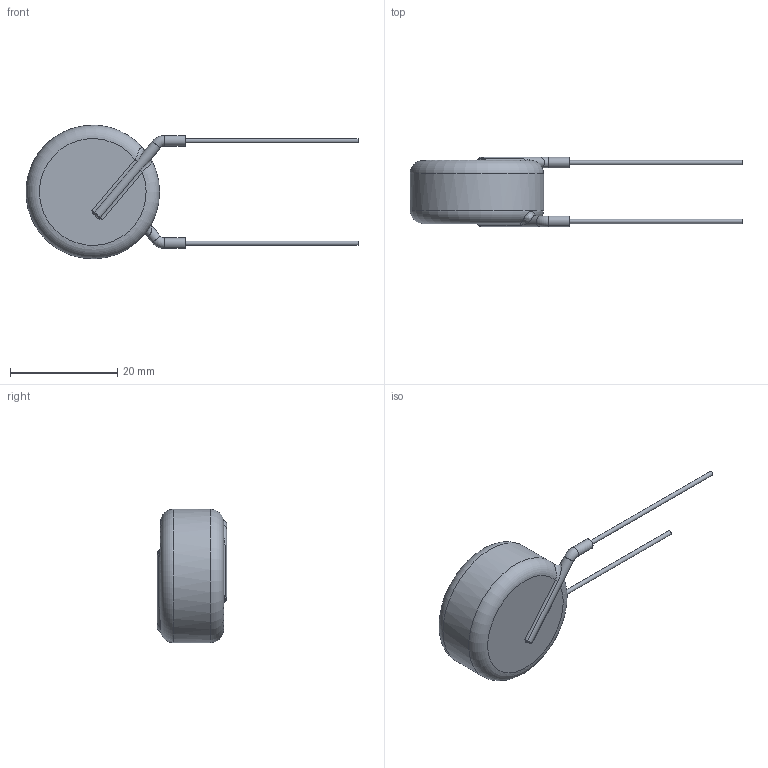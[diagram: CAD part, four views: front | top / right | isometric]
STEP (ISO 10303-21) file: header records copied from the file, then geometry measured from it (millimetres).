
FILE_DESCRIPTION((''),'2;1');
FILE_NAME('I:\Marketing\M6t1\3D-Models\Zchng-Werk-3\Upload for homepage\Ceramite\Z5U-15kV\615R150GAD22\615R150GAD22.stp','2015-08-28T12:24:08',(''),(''),'Autodesk Inventor 2013','Autodesk Inventor 2013','');
FILE_SCHEMA(('AUTOMOTIVE_DESIGN { 1 0 10303 214 1 1 1 1 }'));
Length unit declared in the file: centimetre
Products named in the file (1): 615R150GAD22
Bounding box: 61.9 x 12.95 x 24.9 mm (x, y, z)
Volume: 5661 mm3; surface area: 2005.4 mm2
Topology: 1 solids, 1 shells, 41 faces, 92 edges, 51 vertices
Faces by surface type: cylinder 13, bspline 10, torus 10, plane 8
Full cylindrical faces by diameter (mm): 0.81 x2, 1.95 x4, 24.9 x1
Entity records: 1491 total; most frequent: CARTESIAN_POINT 658, DIRECTION 152, ORIENTED_EDGE 140, AXIS2_PLACEMENT_3D 70, EDGE_CURVE 70, EDGE_LOOP 54, VERTEX_POINT 44, STYLED_ITEM 42
